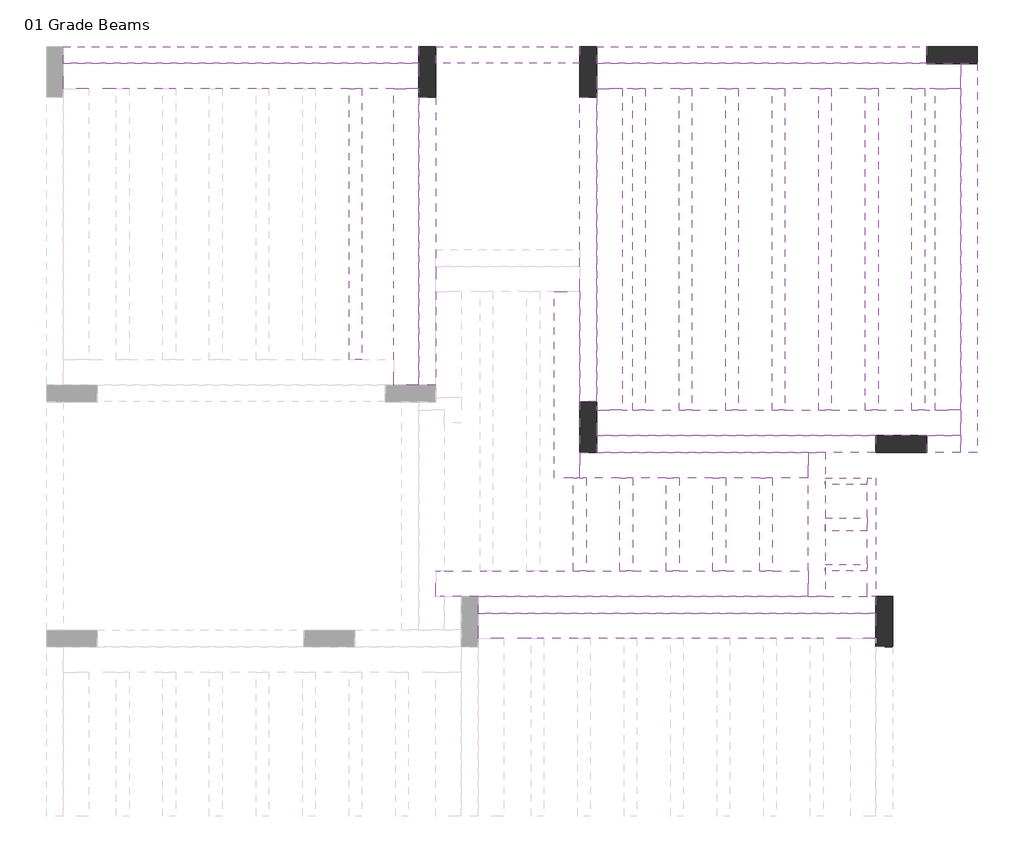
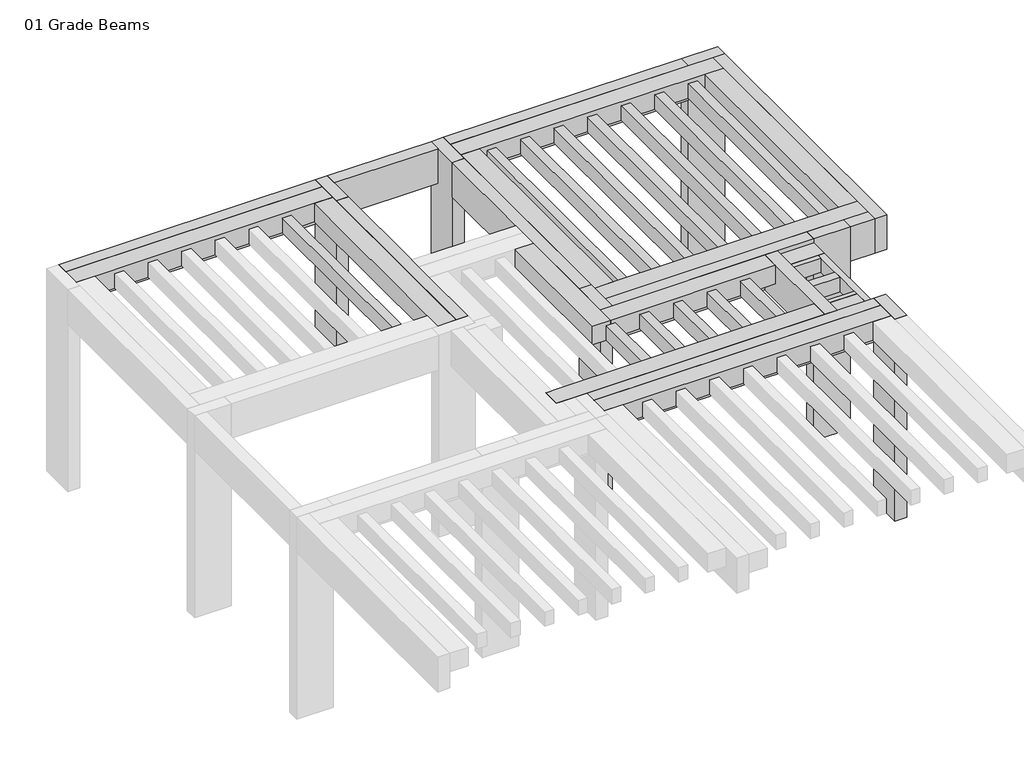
# One storey, part 3 of 3: 37 beams, 6 columns.
"""IFC4 building model written with IfcOpenShell, lengths in millimetres."""

from ifc_helpers import new_model, si_unit, frame, origin, place, context, project, spatial, polyline, outline, extrude, faceted_brep, element, save

model = new_model("IFC4")

# Units and contexts
model_context = context("Model", 3, world=origin())
ifc_project = project(units=[si_unit("LENGTHUNIT", "METRE", prefix="MILLI")], contexts=[model_context])

# Site, building, storey
site = spatial("IfcSite", under=ifc_project)
building = spatial("IfcBuilding", under=site)
storey = spatial("IfcBuildingStorey", under=building, Name="01 Grade Beams", Elevation=0.0)

# Beams
placement = place(None, origin())
element("IfcBeam", 1, ObjectType="M_Concrete-Rectangular Beam : DB1- 20 x 60 cm", at=placement, inside=storey, context=model_context, shape_type="Brep", body=[
    faceted_brep([(698.0737011, 8244.9958345, 3500.0), (698.0737011, 8044.9958345, 3500.0), (4598.0737011, 8044.9958345, 3500.0), (4598.0737011, 8244.9958345, 3500.0), (698.0737011, 8244.9958345, 2900.0), (4598.0737011, 8244.9958345, 2900.0), (698.0737011, 8044.9958345, 2900.0), (4598.0737011, 8044.9958345, 2900.0), (698.0737011, 8044.9958345, 3180.0)], [[[0, 1, 2, 3]], [[4, 0, 3, 5]], [[6, 4, 5, 7]], [[1, 8, 6, 7, 2]], [[1, 0, 4, 6, 8]], [[3, 2, 7, 5]]]),
])
element("IfcBeam", 2, ObjectType="M_Concrete-Rectangular Beam : DB1- 20 x 60 cm", at=placement, inside=storey, context=model_context, shape_type="Brep", body=[
    faceted_brep([(-1201.9262989, 8244.9958345, 3500.0), (-1201.9262989, 8044.9958345, 3500.0), (498.0737011, 8044.9958345, 3500.0), (498.0737011, 8244.9958345, 3500.0), (-1201.9262989, 8244.9958345, 2900.0), (498.0737011, 8244.9958345, 2900.0), (-1201.9262989, 8044.9958345, 2900.0), (498.0737011, 8044.9958345, 2900.0), (-1201.9262989, 8044.9958345, 3330.0), (-1201.9262989, 8044.9958345, 3180.0), (498.0737011, 8044.9958345, 3180.0), (498.0737011, 8044.9958345, 3330.0)], [[[0, 1, 2, 3]], [[4, 0, 3, 5]], [[6, 4, 5, 7]], [[1, 8, 9, 6, 7, 10, 11, 2]], [[1, 0, 4, 6, 9, 8]], [[3, 2, 11, 10, 7, 5]]]),
])
element("IfcBeam", 3, ObjectType="M_Concrete-Rectangular Beam : DB1- 20 x 60 cm", at=placement, inside=storey, context=model_context, shape_type="Brep", body=[
    faceted_brep([(-5601.9262989, 8244.9958345, 3500.0), (-5601.9262989, 8044.9958345, 3500.0), (-1401.9262989, 8044.9958345, 3500.0), (-1401.9262989, 8244.9958345, 3500.0), (-5601.9262989, 8244.9958345, 2900.0), (-1401.9262989, 8244.9958345, 2900.0), (-5601.9262989, 8044.9958345, 2900.0), (-1401.9262989, 8044.9958345, 2900.0), (-5601.9262989, 8044.9958345, 3180.0), (-1401.9262989, 8044.9958345, 3180.0)], [[[0, 1, 2, 3]], [[4, 0, 3, 5]], [[6, 4, 5, 7]], [[1, 8, 6, 7, 9, 2]], [[1, 0, 4, 6, 8]], [[3, 2, 9, 7, 5]]]),
])
element("IfcBeam", 4, ObjectType="M_Concrete-Rectangular Beam : DB1- 20 x 60 cm", at=placement, inside=storey, context=model_context, shape_type="Brep", body=[
    faceted_brep([(3198.0737011, 1744.9958345, 3500.0), (3398.0737011, 1744.9958345, 3500.0), (3398.0737011, 3444.9958345, 3500.0), (3198.0737011, 3444.9958345, 3500.0), (3198.0737011, 3144.9958345, 3500.0), (3198.0737011, 2044.9958345, 3500.0), (3198.0737011, 1744.9958345, 2900.0), (3198.0737011, 1744.9958345, 3180.0), (3198.0737011, 3444.9958345, 3180.0), (3198.0737011, 3444.9958345, 2900.0), (3398.0737011, 1744.9958345, 2900.0), (3398.0737011, 3444.9958345, 2900.0), (3398.0737011, 1744.9958345, 3430.0), (3398.0737011, 1744.9958345, 3180.0), (3398.0737011, 3444.9958345, 3180.0), (3398.0737011, 3444.9958345, 3430.0)], [[[0, 1, 2, 3, 4, 5]], [[6, 7, 0, 5, 4, 3, 8, 9]], [[10, 6, 9, 11]], [[1, 12, 13, 10, 11, 14, 15, 2]], [[1, 0, 7, 6, 10, 13, 12]], [[3, 2, 15, 14, 11, 9, 8]]]),
])
element("IfcBeam", 5, ObjectType="M_Concrete-Rectangular Beam : DB2- 20 x 60 cm", at=placement, inside=storey, context=model_context, shape_type="Brep", body=[
    faceted_brep([(-1201.9262989, 7644.9958345, 3500.0), (-1401.9262989, 7644.9958345, 3500.0), (-1401.9262989, 4244.9958345, 3500.0), (-1201.9262989, 4244.9958345, 3500.0), (-1201.9262989, 5344.9958345, 3500.0), (-1201.9262989, 5644.9958345, 3500.0), (-1201.9262989, 5844.9958345, 3500.0), (-1401.9262989, 7644.9958345, 2900.0), (-1401.9262989, 4244.9958345, 2900.0), (-1401.9262989, 4244.9958345, 3180.0), (-1201.9262989, 7644.9958345, 2900.0), (-1201.9262989, 5844.9958345, 2900.0), (-1201.9262989, 5644.9958345, 2900.0), (-1201.9262989, 4244.9958345, 2900.0)], [[[0, 1, 2, 3, 4, 5, 6]], [[1, 7, 8, 9, 2]], [[7, 10, 11, 12, 13, 8]], [[10, 0, 6, 5, 4, 3, 13, 12, 11]], [[1, 0, 10, 7]], [[3, 2, 9, 8, 13]]]),
])
element("IfcBeam", 6, ObjectType="M_Concrete-Rectangular Beam : DB2- 20 x 60 cm", at=placement, inside=storey, context=model_context, shape_type="Brep", body=[
    faceted_brep([(698.0737011, 7644.9958345, 3500.0), (498.0737011, 7644.9958345, 3500.0), (498.0737011, 5844.9958345, 3500.0), (498.0737011, 5644.9958345, 3500.0), (498.0737011, 5344.9958345, 3500.0), (498.0737011, 4044.9958345, 3500.0), (698.0737011, 4044.9958345, 3500.0), (498.0737011, 7644.9958345, 2900.0), (498.0737011, 5844.9958345, 2900.0), (498.0737011, 5644.9958345, 2900.0), (498.0737011, 4044.9958345, 2900.0), (698.0737011, 7644.9958345, 2900.0), (698.0737011, 4044.9958345, 2900.0)], [[[0, 1, 2, 3, 4, 5, 6]], [[1, 7, 8, 9, 10, 5, 4, 3, 2]], [[7, 11, 12, 10, 9, 8]], [[11, 0, 6, 12]], [[1, 0, 11, 7]], [[6, 5, 10, 12]]]),
])
element("IfcBeam", 7, ObjectType="M_Concrete-Rectangular Beam : DB2- 20 x 60 cm", at=placement, inside=storey, context=model_context, shape_type="Brep", body=[
    faceted_brep([(-701.9262989, 1744.9958345, 3500.0), (-701.9262989, 1544.9958345, 3500.0), (3998.0737011, 1544.9958345, 3500.0), (3998.0737011, 1744.9958345, 3500.0), (3398.0737011, 1744.9958345, 3500.0), (3198.0737011, 1744.9958345, 3500.0), (-701.9262989, 1544.9958345, 3180.0), (-701.9262989, 1544.9958345, 2900.0), (3998.0737011, 1544.9958345, 2900.0), (3998.0737011, 1544.9958345, 3180.0), (-701.9262989, 1744.9958345, 2900.0), (3198.0737011, 1744.9958345, 2900.0), (3398.0737011, 1744.9958345, 2900.0), (3998.0737011, 1744.9958345, 2900.0), (3998.0737011, 1744.9958345, 3430.0), (3998.0737011, 1744.9958345, 3180.0)], [[[0, 1, 2, 3, 4, 5]], [[1, 6, 7, 8, 9, 2]], [[7, 10, 11, 12, 13, 8]], [[10, 0, 5, 4, 3, 14, 15, 13, 12, 11]], [[1, 0, 10, 7, 6]], [[3, 2, 9, 8, 13, 15, 14]]]),
])
element("IfcBeam", 8, ObjectType="M_Concrete-Rectangular Beam : DB2- 20 x 60 cm", at=placement, inside=storey, context=model_context, shape_type="Brep", body=[
    faceted_brep([(3998.0737011, 3444.9958345, 3500.0), (3998.0737011, 3644.9958345, 3500.0), (698.0737011, 3644.9958345, 3500.0), (698.0737011, 3444.9958345, 3500.0), (3198.0737011, 3444.9958345, 3500.0), (3398.0737011, 3444.9958345, 3500.0), (3998.0737011, 3644.9958345, 2900.0), (698.0737011, 3644.9958345, 2900.0), (698.0737011, 3644.9958345, 3180.0), (3998.0737011, 3444.9958345, 2900.0), (3398.0737011, 3444.9958345, 2900.0), (3198.0737011, 3444.9958345, 2900.0), (698.0737011, 3444.9958345, 2900.0), (3998.0737011, 3444.9958345, 3180.0), (3998.0737011, 3444.9958345, 3430.0)], [[[0, 1, 2, 3, 4, 5]], [[1, 6, 7, 8, 2]], [[6, 9, 10, 11, 12, 7]], [[9, 13, 14, 0, 5, 4, 3, 12, 11, 10]], [[1, 0, 14, 13, 9, 6]], [[3, 2, 8, 7, 12]]]),
])
element("IfcBeam", 9, ObjectType="M_Concrete-Rectangular Beam : DB2- 20 x 60 cm", at=placement, inside=storey, context=model_context, shape_type="Brep", body=[
    faceted_brep([(4998.0737011, 3444.9958345, 3500.0), (5198.0737011, 3444.9958345, 3500.0), (5198.0737011, 8044.9958345, 3500.0), (4998.0737011, 8044.9958345, 3500.0), (4998.0737011, 7744.9958345, 3500.0), (4998.0737011, 3944.9958345, 3500.0), (4998.0737011, 3644.9958345, 3500.0), (4998.0737011, 3444.9958345, 2900.0), (4998.0737011, 8044.9958345, 3180.0), (4998.0737011, 8044.9958345, 2900.0), (4998.0737011, 3644.9958345, 2900.0), (5198.0737011, 3444.9958345, 2900.0), (5198.0737011, 8044.9958345, 2900.0)], [[[0, 1, 2, 3, 4, 5, 6]], [[7, 0, 6, 5, 4, 3, 8, 9, 10]], [[11, 7, 10, 9, 12]], [[1, 11, 12, 2]], [[1, 0, 7, 11]], [[3, 2, 12, 9, 8]]]),
])
element("IfcBeam", 10, ObjectType="M_Concrete-Rectangular Beam : DBC- 20 x 60 cm", at=placement, inside=storey, context=model_context, shape_type="Brep", body=[
    faceted_brep([(4998.0737011, 3444.9958345, 3500.0), (4998.0737011, 3644.9958345, 3500.0), (4598.0737011, 3644.9958345, 3500.0), (4598.0737011, 3444.9958345, 3500.0), (4998.0737011, 3444.9958345, 2900.0), (4598.0737011, 3444.9958345, 2900.0), (4998.0737011, 3644.9958345, 2900.0), (4598.0737011, 3644.9958345, 2900.0), (4998.0737011, 3644.9958345, 3180.0)], [[[0, 1, 2, 3]], [[4, 0, 3, 5]], [[6, 4, 5, 7]], [[1, 8, 6, 7, 2]], [[1, 0, 4, 6, 8]], [[3, 2, 7, 5]]]),
])
element("IfcBeam", 11, ObjectType="M_Concrete-Rectangular Beam : P- 30 x 32 cm", at=placement, inside=storey, context=model_context, shape_type="Brep", body=[
    faceted_brep([(-5601.9262989, 8044.9958345, 3500.0), (-5601.9262989, 7744.9958345, 3500.0), (-5301.9262989, 7744.9958345, 3500.0), (-1701.9262989, 7744.9958345, 3500.0), (-1401.9262989, 7744.9958345, 3500.0), (-1401.9262989, 8044.9958345, 3500.0), (-5601.9262989, 8044.9958345, 3180.0), (-1401.9262989, 8044.9958345, 3180.0), (-5601.9262989, 7744.9958345, 3180.0), (-1401.9262989, 7744.9958345, 3180.0), (-1701.9262989, 7744.9958345, 3180.0), (-2076.9262989, 7744.9958345, 3180.0), (-2226.9262989, 7744.9958345, 3180.0), (-2626.9262989, 7744.9958345, 3180.0), (-2776.9262989, 7744.9958345, 3180.0), (-3176.9262989, 7744.9958345, 3180.0), (-3326.9262989, 7744.9958345, 3180.0), (-3726.9262989, 7744.9958345, 3180.0), (-3876.9262989, 7744.9958345, 3180.0), (-4276.9262989, 7744.9958345, 3180.0), (-4426.9262989, 7744.9958345, 3180.0), (-4826.9262989, 7744.9958345, 3180.0), (-4976.9262989, 7744.9958345, 3180.0), (-5301.9262989, 7744.9958345, 3180.0)], [[[0, 1, 2, 3, 4, 5]], [[6, 0, 5, 7]], [[8, 6, 7, 9, 10, 11, 12, 13, 14, 15, 16, 17, 18, 19, 20, 21, 22, 23]], [[1, 8, 23, 22, 21, 20, 19, 18, 17, 16, 15, 14, 13, 12, 11, 10, 9, 4, 3, 2]], [[8, 1, 0, 6]], [[4, 9, 7, 5]]]),
])
element("IfcBeam", 12, ObjectType="M_Concrete-Rectangular Beam : P- 30 x 32 cm", at=placement, inside=storey, context=model_context, shape_type="Brep", body=[
    faceted_brep([(-1701.9262989, 4244.9958345, 3500.0), (-1401.9262989, 4244.9958345, 3500.0), (-1401.9262989, 7644.9958345, 3500.0), (-1401.9262989, 7744.9958345, 3500.0), (-1701.9262989, 7744.9958345, 3500.0), (-1701.9262989, 4544.9958345, 3500.0), (-1701.9262989, 4244.9958345, 3180.0), (-1701.9262989, 7744.9958345, 3430.0), (-1701.9262989, 7744.9958345, 3180.0), (-1701.9262989, 4544.9958345, 3180.0), (-1401.9262989, 4244.9958345, 3180.0), (-1401.9262989, 7744.9958345, 3180.0)], [[[0, 1, 2, 3, 4, 5]], [[6, 0, 5, 4, 7, 8, 9]], [[10, 6, 9, 8, 11]], [[1, 10, 11, 3, 2]], [[4, 3, 11, 8, 7]], [[1, 0, 6, 10]]]),
])
element("IfcBeam", 13, ObjectType="M_Concrete-Rectangular Beam : P- 30 x 32 cm", at=placement, inside=storey, context=model_context, shape_type="Brep", body=[
    faceted_brep([(698.0737011, 8044.9958345, 3500.0), (698.0737011, 7744.9958345, 3500.0), (998.0737011, 7744.9958345, 3500.0), (4698.0737011, 7744.9958345, 3500.0), (4998.0737011, 7744.9958345, 3500.0), (4998.0737011, 8044.9958345, 3500.0), (4598.0737011, 8044.9958345, 3500.0), (4998.0737011, 8044.9958345, 3180.0), (698.0737011, 8044.9958345, 3180.0), (698.0737011, 7744.9958345, 3180.0), (4998.0737011, 7744.9958345, 3180.0), (4698.0737011, 7744.9958345, 3180.0), (4573.0737011, 7744.9958345, 3180.0), (4423.0737011, 7744.9958345, 3180.0), (4023.0737011, 7744.9958345, 3180.0), (3873.0737011, 7744.9958345, 3180.0), (3473.0737011, 7744.9958345, 3180.0), (3323.0737011, 7744.9958345, 3180.0), (2923.0737011, 7744.9958345, 3180.0), (2773.0737011, 7744.9958345, 3180.0), (2373.0737011, 7744.9958345, 3180.0), (2223.0737011, 7744.9958345, 3180.0), (1823.0737011, 7744.9958345, 3180.0), (1673.0737011, 7744.9958345, 3180.0), (1273.0737011, 7744.9958345, 3180.0), (1123.0737011, 7744.9958345, 3180.0), (998.0737011, 7744.9958345, 3180.0)], [[[0, 1, 2, 3, 4, 5, 6]], [[5, 7, 8, 0, 6]], [[9, 8, 7, 10, 11, 12, 13, 14, 15, 16, 17, 18, 19, 20, 21, 22, 23, 24, 25, 26]], [[1, 9, 26, 25, 24, 23, 22, 21, 20, 19, 18, 17, 16, 15, 14, 13, 12, 11, 10, 4, 3, 2]], [[0, 8, 9, 1]], [[5, 4, 10, 7]]]),
])
element("IfcBeam", 14, ObjectType="M_Concrete-Rectangular Beam : P- 30 x 32 cm", at=placement, inside=storey, context=model_context, shape_type="Brep", body=[
    faceted_brep([(998.0737011, 7744.9958345, 3500.0), (698.0737011, 7744.9958345, 3500.0), (698.0737011, 7644.9958345, 3500.0), (698.0737011, 4044.9958345, 3500.0), (698.0737011, 3944.9958345, 3500.0), (998.0737011, 3944.9958345, 3500.0), (698.0737011, 7744.9958345, 3180.0), (698.0737011, 3944.9958345, 3180.0), (998.0737011, 7744.9958345, 3180.0), (998.0737011, 3944.9958345, 3180.0), (998.0737011, 7744.9958345, 3430.0), (998.0737011, 3944.9958345, 3430.0)], [[[0, 1, 2, 3, 4, 5]], [[1, 6, 7, 4, 3, 2]], [[6, 8, 9, 7]], [[8, 10, 0, 5, 11, 9]], [[1, 0, 10, 8, 6]], [[5, 4, 7, 9, 11]]]),
])
element("IfcBeam", 15, ObjectType="M_Concrete-Rectangular Beam : P- 30 x 32 cm", at=placement, inside=storey, context=model_context, shape_type="Brep", body=[
    faceted_brep([(698.0737011, 3944.9958345, 3500.0), (698.0737011, 3644.9958345, 3500.0), (3998.0737011, 3644.9958345, 3500.0), (4598.0737011, 3644.9958345, 3500.0), (4998.0737011, 3644.9958345, 3500.0), (4998.0737011, 3944.9958345, 3500.0), (4698.0737011, 3944.9958345, 3500.0), (998.0737011, 3944.9958345, 3500.0), (4998.0737011, 3644.9958345, 3180.0), (698.0737011, 3644.9958345, 3180.0), (698.0737011, 3944.9958345, 3180.0), (998.0737011, 3944.9958345, 3180.0), (1123.0737011, 3944.9958345, 3180.0), (1273.0737011, 3944.9958345, 3180.0), (1673.0737011, 3944.9958345, 3180.0), (1823.0737011, 3944.9958345, 3180.0), (2223.0737011, 3944.9958345, 3180.0), (2373.0737011, 3944.9958345, 3180.0), (2773.0737011, 3944.9958345, 3180.0), (2923.0737011, 3944.9958345, 3180.0), (3323.0737011, 3944.9958345, 3180.0), (3473.0737011, 3944.9958345, 3180.0), (3873.0737011, 3944.9958345, 3180.0), (4023.0737011, 3944.9958345, 3180.0), (4423.0737011, 3944.9958345, 3180.0), (4573.0737011, 3944.9958345, 3180.0), (4698.0737011, 3944.9958345, 3180.0), (4998.0737011, 3944.9958345, 3180.0)], [[[0, 1, 2, 3, 4, 5, 6, 7]], [[8, 4, 3, 2, 1, 9]], [[9, 10, 11, 12, 13, 14, 15, 16, 17, 18, 19, 20, 21, 22, 23, 24, 25, 26, 27, 8]], [[10, 0, 7, 6, 5, 27, 26, 25, 24, 23, 22, 21, 20, 19, 18, 17, 16, 15, 14, 13, 12, 11]], [[0, 10, 9, 1]], [[5, 4, 8, 27]]]),
])
element("IfcBeam", 16, ObjectType="M_Concrete-Rectangular Beam : P- 30 x 32 cm", at=placement, inside=storey, context=model_context, shape_type="Brep", body=[
    faceted_brep([(4998.0737011, 7744.9958345, 3500.0), (4698.0737011, 7744.9958345, 3500.0), (4698.0737011, 3944.9958345, 3500.0), (4998.0737011, 3944.9958345, 3500.0), (4998.0737011, 7744.9958345, 3180.0), (4998.0737011, 3944.9958345, 3180.0), (4698.0737011, 7744.9958345, 3180.0), (4698.0737011, 3944.9958345, 3180.0), (4698.0737011, 7744.9958345, 3430.0), (4698.0737011, 3944.9958345, 3430.0)], [[[0, 1, 2, 3]], [[4, 0, 3, 5]], [[6, 4, 5, 7]], [[1, 8, 6, 7, 9, 2]], [[1, 0, 4, 6, 8]], [[3, 2, 9, 7, 5]]]),
])
element("IfcBeam", 17, ObjectType="M_Concrete-Rectangular Beam : P- 30 x 32 cm", at=placement, inside=storey, context=model_context, shape_type="Brep", body=[
    faceted_brep([(-701.9262989, 1544.9958345, 3500.0), (-701.9262989, 1244.9958345, 3500.0), (-401.9262989, 1244.9958345, 3500.0), (3698.0737011, 1244.9958345, 3500.0), (3998.0737011, 1244.9958345, 3500.0), (3998.0737011, 1544.9958345, 3500.0), (-701.9262989, 1544.9958345, 3180.0), (3998.0737011, 1544.9958345, 3180.0), (-701.9262989, 1244.9958345, 3180.0), (3998.0737011, 1244.9958345, 3180.0), (3698.0737011, 1244.9958345, 3180.0), (3373.0737011, 1244.9958345, 3180.0), (3223.0737011, 1244.9958345, 3180.0), (2823.0737011, 1244.9958345, 3180.0), (2673.0737011, 1244.9958345, 3180.0), (2273.0737011, 1244.9958345, 3180.0), (2123.0737011, 1244.9958345, 3180.0), (1723.0737011, 1244.9958345, 3180.0), (1573.0737011, 1244.9958345, 3180.0), (1173.0737011, 1244.9958345, 3180.0), (1023.0737011, 1244.9958345, 3180.0), (623.0737011, 1244.9958345, 3180.0), (473.0737011, 1244.9958345, 3180.0), (73.0737011, 1244.9958345, 3180.0), (-76.9262989, 1244.9958345, 3180.0), (-401.9262989, 1244.9958345, 3180.0)], [[[0, 1, 2, 3, 4, 5]], [[6, 0, 5, 7]], [[8, 6, 7, 9, 10, 11, 12, 13, 14, 15, 16, 17, 18, 19, 20, 21, 22, 23, 24, 25]], [[1, 8, 25, 24, 23, 22, 21, 20, 19, 18, 17, 16, 15, 14, 13, 12, 11, 10, 9, 4, 3, 2]], [[1, 0, 6, 8]], [[5, 4, 9, 7]]]),
])
element("IfcBeam", 18, ObjectType="M_Concrete-Rectangular Beam : P- 30 x 32 cm", at=placement, inside=storey, context=model_context, shape_type="Brep", body=[
    faceted_brep([(498.0737011, 5344.9958345, 3500.0), (198.0737011, 5344.9958345, 3500.0), (198.0737011, 3144.9958345, 3500.0), (498.0737011, 3144.9958345, 3500.0), (498.0737011, 3444.9958345, 3500.0), (498.0737011, 4044.9958345, 3500.0), (198.0737011, 5344.9958345, 3430.0), (198.0737011, 5344.9958345, 3180.0), (198.0737011, 3144.9958345, 3180.0), (198.0737011, 3144.9958345, 3430.0), (498.0737011, 5344.9958345, 3180.0), (498.0737011, 3444.9958345, 3180.0), (498.0737011, 3144.9958345, 3180.0), (423.0737011, 3144.9958345, 3180.0), (498.0737011, 3144.9958345, 3430.0)], [[[0, 1, 2, 3, 4, 5]], [[2, 1, 6, 7, 8, 9]], [[7, 10, 11, 12, 13, 8]], [[10, 0, 5, 4, 3, 14, 12, 11]], [[1, 0, 10, 7, 6]], [[3, 2, 9, 8, 13, 12, 14]]]),
])
element("IfcBeam", 19, ObjectType="M_Concrete-Rectangular Beam : P- 30 x 32 cm", at=placement, inside=storey, context=model_context, shape_type="Brep", body=[
    faceted_brep([(498.0737011, 3444.9958345, 3500.0), (498.0737011, 3144.9958345, 3500.0), (3198.0737011, 3144.9958345, 3500.0), (3198.0737011, 3444.9958345, 3500.0), (698.0737011, 3444.9958345, 3500.0), (498.0737011, 3144.9958345, 3430.0), (498.0737011, 3144.9958345, 3180.0), (573.0737011, 3144.9958345, 3180.0), (973.0737011, 3144.9958345, 3180.0), (1123.0737011, 3144.9958345, 3180.0), (1523.0737011, 3144.9958345, 3180.0), (1673.0737011, 3144.9958345, 3180.0), (2073.0737011, 3144.9958345, 3180.0), (2223.0737011, 3144.9958345, 3180.0), (2623.0737011, 3144.9958345, 3180.0), (2773.0737011, 3144.9958345, 3180.0), (3198.0737011, 3144.9958345, 3180.0), (3198.0737011, 3144.9958345, 3430.0), (498.0737011, 3444.9958345, 3180.0), (3198.0737011, 3444.9958345, 3180.0)], [[[0, 1, 2, 3, 4]], [[2, 1, 5, 6, 7, 8, 9, 10, 11, 12, 13, 14, 15, 16, 17]], [[6, 18, 19, 16, 15, 14, 13, 12, 11, 10, 9, 8, 7]], [[18, 0, 4, 3, 19]], [[1, 0, 18, 6, 5]], [[3, 2, 17, 16, 19]]]),
    faceted_brep([(3398.0737011, 3444.9958345, 3180.0), (3398.0737011, 3144.9958345, 3180.0), (3398.0737011, 3144.9958345, 3430.0), (3398.0737011, 3444.9958345, 3430.0), (3898.0737011, 3144.9958345, 3180.0), (3998.0737011, 3144.9958345, 3180.0), (3998.0737011, 3144.9958345, 3430.0), (3898.0737011, 3144.9958345, 3430.0), (3998.0737011, 3444.9958345, 3180.0), (3998.0737011, 3444.9958345, 3430.0)], [[[0, 1, 2, 3]], [[2, 1, 4, 5, 6, 7]], [[1, 0, 8, 5, 4]], [[0, 3, 9, 8]], [[5, 8, 9, 6]], [[3, 2, 7, 6, 9]]]),
])
element("IfcBeam", 20, ObjectType="M_Concrete-Rectangular Beam : P- 30 x 32 cm", at=placement, inside=storey, context=model_context, shape_type="Brep", body=[
    faceted_brep([(3898.0737011, 3144.9958345, 3180.0), (3898.0737011, 3069.9958345, 3180.0), (3898.0737011, 2669.9958345, 3180.0), (3898.0737011, 2519.9958345, 3180.0), (3898.0737011, 2119.9958345, 3180.0), (3898.0737011, 2044.9958345, 3180.0), (3898.0737011, 1744.9958345, 3180.0), (3898.0737011, 1744.9958345, 3430.0), (3898.0737011, 2044.9958345, 3430.0), (3898.0737011, 2119.9958345, 3430.0), (3898.0737011, 2519.9958345, 3430.0), (3898.0737011, 2669.9958345, 3430.0), (3898.0737011, 3069.9958345, 3430.0), (3898.0737011, 3144.9958345, 3430.0), (3998.0737011, 3144.9958345, 3180.0), (3998.0737011, 1744.9958345, 3180.0), (3998.0737011, 3144.9958345, 3430.0), (3998.0737011, 1744.9958345, 3430.0)], [[[0, 1, 2, 3, 4, 5, 6, 7, 8, 9, 10, 11, 12, 13]], [[6, 5, 4, 3, 2, 1, 0, 14, 15]], [[14, 0, 13, 16]], [[6, 15, 17, 7]], [[15, 14, 16, 17]], [[13, 12, 11, 10, 9, 8, 7, 17, 16]]]),
])
element("IfcBeam", 21, ObjectType="M_Concrete-Rectangular Beam : P- 30 x 32 cm", at=placement, inside=storey, context=model_context, shape_type="Brep", body=[
    faceted_brep([(3898.0737011, 2044.9958345, 3180.0), (3398.0737011, 2044.9958345, 3180.0), (3398.0737011, 2044.9958345, 3430.0), (3898.0737011, 2044.9958345, 3430.0), (3898.0737011, 1744.9958345, 3180.0), (3398.0737011, 1744.9958345, 3180.0), (3898.0737011, 1744.9958345, 3430.0), (3398.0737011, 1744.9958345, 3430.0)], [[[0, 1, 2, 3]], [[0, 4, 5, 1]], [[5, 4, 6, 7]], [[4, 0, 3, 6]], [[1, 5, 7, 2]], [[3, 2, 7, 6]]]),
    faceted_brep([(3198.0737011, 2044.9958345, 3500.0), (3198.0737011, 1744.9958345, 3500.0), (3198.0737011, 1744.9958345, 3180.0), (3198.0737011, 2044.9958345, 3180.0), (3198.0737011, 2044.9958345, 3430.0), (-1101.9262989, 2044.9958345, 3500.0), (-1201.9262989, 2044.9958345, 3500.0), (-1201.9262989, 1744.9958345, 3500.0), (-1101.9262989, 1744.9958345, 3500.0), (-901.9262989, 1744.9958345, 3500.0), (-701.9262989, 1744.9958345, 3500.0), (2773.0737011, 2044.9958345, 3180.0), (2623.0737011, 2044.9958345, 3180.0), (2223.0737011, 2044.9958345, 3180.0), (2073.0737011, 2044.9958345, 3180.0), (1673.0737011, 2044.9958345, 3180.0), (1523.0737011, 2044.9958345, 3180.0), (1123.0737011, 2044.9958345, 3180.0), (973.0737011, 2044.9958345, 3180.0), (573.0737011, 2044.9958345, 3180.0), (423.0737011, 2044.9958345, 3180.0), (23.0737011, 2044.9958345, 3180.0), (-126.9262989, 2044.9958345, 3180.0), (-526.9262989, 2044.9958345, 3180.0), (-676.9262989, 2044.9958345, 3180.0), (-1101.9262989, 2044.9958345, 3180.0), (-1201.9262989, 2044.9958345, 3180.0), (-901.9262989, 1744.9958345, 3180.0), (-1101.9262989, 1744.9958345, 3180.0), (-1201.9262989, 1744.9958345, 3180.0)], [[[0, 1, 2, 3, 4]], [[1, 0, 5, 6, 7, 8, 9, 10]], [[0, 4, 3, 11, 12, 13, 14, 15, 16, 17, 18, 19, 20, 21, 22, 23, 24, 25, 26, 6, 5]], [[3, 2, 27, 28, 29, 26, 25, 24, 23, 22, 21, 20, 19, 18, 17, 16, 15, 14, 13, 12, 11]], [[2, 1, 10, 9, 8, 7, 29, 28, 27]], [[7, 6, 26, 29]]]),
])
element("IfcBeam", 22, ObjectType="M_Pan Joist : RB1- 32 x 15", at=placement, inside=storey, context=model_context, shape_type="SweptSolid", body=[
    extrude(outline(polyline([(-2226.9262989, 7744.9958345), (-2076.9262989, 7744.9958345), (-2076.9262989, 4544.9958345), (-2226.9262989, 4544.9958345), (-2226.9262989, 7744.9958345)])), frame((0.0, 0.0, 3180.0), z_axis=(0.0, 0.0, 1.0), x_axis=(1.0, 0.0, 0.0)), (0.0, 0.0, 1.0), 250.0),
])
element("IfcBeam", 23, ObjectType="M_Pan Joist : RB1- 32 x 15", at=placement, inside=storey, context=model_context, shape_type="SweptSolid", body=[
    extrude(outline(polyline([(4423.0737011, 7744.9958345), (4573.0737011, 7744.9958345), (4573.0737011, 3944.9958345), (4423.0737011, 3944.9958345), (4423.0737011, 7744.9958345)])), frame((0.0, 0.0, 3180.0), z_axis=(0.0, 0.0, 1.0), x_axis=(1.0, 0.0, 0.0)), (0.0, 0.0, 1.0), 250.0),
])
element("IfcBeam", 24, ObjectType="M_Pan Joist : RB1- 32 x 15", at=placement, inside=storey, context=model_context, shape_type="SweptSolid", body=[
    extrude(outline(polyline([(3873.0737011, 7744.9958345), (4023.0737011, 7744.9958345), (4023.0737011, 3944.9958345), (3873.0737011, 3944.9958345), (3873.0737011, 7744.9958345)])), frame((0.0, 0.0, 3180.0), z_axis=(0.0, 0.0, 1.0), x_axis=(1.0, 0.0, 0.0)), (0.0, 0.0, 1.0), 250.0),
])
element("IfcBeam", 25, ObjectType="M_Pan Joist : RB1- 32 x 15", at=placement, inside=storey, context=model_context, shape_type="SweptSolid", body=[
    extrude(outline(polyline([(3323.0737011, 7744.9958345), (3473.0737011, 7744.9958345), (3473.0737011, 3944.9958345), (3323.0737011, 3944.9958345), (3323.0737011, 7744.9958345)])), frame((0.0, 0.0, 3180.0), z_axis=(0.0, 0.0, 1.0), x_axis=(1.0, 0.0, 0.0)), (0.0, 0.0, 1.0), 250.0),
])
element("IfcBeam", 26, ObjectType="M_Pan Joist : RB1- 32 x 15", at=placement, inside=storey, context=model_context, shape_type="SweptSolid", body=[
    extrude(outline(polyline([(2773.0737011, 7744.9958345), (2923.0737011, 7744.9958345), (2923.0737011, 3944.9958345), (2773.0737011, 3944.9958345), (2773.0737011, 7744.9958345)])), frame((0.0, 0.0, 3180.0), z_axis=(0.0, 0.0, 1.0), x_axis=(1.0, 0.0, 0.0)), (0.0, 0.0, 1.0), 250.0),
])
element("IfcBeam", 27, ObjectType="M_Pan Joist : RB1- 32 x 15", at=placement, inside=storey, context=model_context, shape_type="SweptSolid", body=[
    extrude(outline(polyline([(2223.0737011, 7744.9958345), (2373.0737011, 7744.9958345), (2373.0737011, 3944.9958345), (2223.0737011, 3944.9958345), (2223.0737011, 7744.9958345)])), frame((0.0, 0.0, 3180.0), z_axis=(0.0, 0.0, 1.0), x_axis=(1.0, 0.0, 0.0)), (0.0, 0.0, 1.0), 250.0),
])
element("IfcBeam", 28, ObjectType="M_Pan Joist : RB1- 32 x 15", at=placement, inside=storey, context=model_context, shape_type="SweptSolid", body=[
    extrude(outline(polyline([(1673.0737011, 7744.9958345), (1823.0737011, 7744.9958345), (1823.0737011, 3944.9958345), (1673.0737011, 3944.9958345), (1673.0737011, 7744.9958345)])), frame((0.0, 0.0, 3180.0), z_axis=(0.0, 0.0, 1.0), x_axis=(1.0, 0.0, 0.0)), (0.0, 0.0, 1.0), 250.0),
])
element("IfcBeam", 29, ObjectType="M_Pan Joist : RB1- 32 x 15", at=placement, inside=storey, context=model_context, shape_type="SweptSolid", body=[
    extrude(outline(polyline([(1123.0737011, 7744.9958345), (1273.0737011, 7744.9958345), (1273.0737011, 3944.9958345), (1123.0737011, 3944.9958345), (1123.0737011, 7744.9958345)])), frame((0.0, 0.0, 3180.0), z_axis=(0.0, 0.0, 1.0), x_axis=(1.0, 0.0, 0.0)), (0.0, 0.0, 1.0), 250.0),
])
element("IfcBeam", 30, ObjectType="M_Pan Joist : RB1- 32 x 15", at=placement, inside=storey, context=model_context, shape_type="SweptSolid", body=[
    extrude(outline(polyline([(3898.0737011, 3069.9958345), (3398.0737011, 3069.9958345), (3398.0737011, 3144.9958345), (3898.0737011, 3144.9958345), (3898.0737011, 3069.9958345)])), frame((0.0, 0.0, 3180.0), z_axis=(0.0, 0.0, 1.0), x_axis=(1.0, 0.0, 0.0)), (0.0, 0.0, 1.0), 250.0),
])
element("IfcBeam", 31, ObjectType="M_Pan Joist : RB1- 32 x 15", at=placement, inside=storey, context=model_context, shape_type="SweptSolid", body=[
    extrude(outline(polyline([(3398.0737011, 2519.9958345), (3398.0737011, 2669.9958345), (3898.0737011, 2669.9958345), (3898.0737011, 2519.9958345), (3398.0737011, 2519.9958345)])), frame((0.0, 0.0, 3180.0), z_axis=(0.0, 0.0, 1.0), x_axis=(1.0, 0.0, 0.0)), (0.0, 0.0, 1.0), 250.0),
])
element("IfcBeam", 32, ObjectType="M_Pan Joist : RB1- 32 x 15", at=placement, inside=storey, context=model_context, shape_type="SweptSolid", body=[
    extrude(outline(polyline([(3398.0737011, 2119.9958345), (3898.0737011, 2119.9958345), (3898.0737011, 2044.9958345), (3398.0737011, 2044.9958345), (3398.0737011, 2119.9958345)])), frame((0.0, 0.0, 3180.0), z_axis=(0.0, 0.0, 1.0), x_axis=(1.0, 0.0, 0.0)), (0.0, 0.0, 1.0), 250.0),
])
element("IfcBeam", 33, ObjectType="M_Pan Joist : RB1- 32 x 15", at=placement, inside=storey, context=model_context, shape_type="SweptSolid", body=[
    extrude(outline(polyline([(2623.0737011, 3144.9958345), (2773.0737011, 3144.9958345), (2773.0737011, 2044.9958345), (2623.0737011, 2044.9958345), (2623.0737011, 3144.9958345)])), frame((0.0, 0.0, 3180.0), z_axis=(0.0, 0.0, 1.0), x_axis=(1.0, 0.0, 0.0)), (0.0, 0.0, 1.0), 250.0),
])
element("IfcBeam", 34, ObjectType="M_Pan Joist : RB1- 32 x 15", at=placement, inside=storey, context=model_context, shape_type="SweptSolid", body=[
    extrude(outline(polyline([(2073.0737011, 3144.9958345), (2223.0737011, 3144.9958345), (2223.0737011, 2044.9958345), (2073.0737011, 2044.9958345), (2073.0737011, 3144.9958345)])), frame((0.0, 0.0, 3180.0), z_axis=(0.0, 0.0, 1.0), x_axis=(1.0, 0.0, 0.0)), (0.0, 0.0, 1.0), 250.0),
])
element("IfcBeam", 35, ObjectType="M_Pan Joist : RB1- 32 x 15", at=placement, inside=storey, context=model_context, shape_type="SweptSolid", body=[
    extrude(outline(polyline([(1523.0737011, 3144.9958345), (1673.0737011, 3144.9958345), (1673.0737011, 2044.9958345), (1523.0737011, 2044.9958345), (1523.0737011, 3144.9958345)])), frame((0.0, 0.0, 3180.0), z_axis=(0.0, 0.0, 1.0), x_axis=(1.0, 0.0, 0.0)), (0.0, 0.0, 1.0), 250.0),
])
element("IfcBeam", 36, ObjectType="M_Pan Joist : RB1- 32 x 15", at=placement, inside=storey, context=model_context, shape_type="SweptSolid", body=[
    extrude(outline(polyline([(973.0737011, 3144.9958345), (1123.0737011, 3144.9958345), (1123.0737011, 2044.9958345), (973.0737011, 2044.9958345), (973.0737011, 3144.9958345)])), frame((0.0, 0.0, 3180.0), z_axis=(0.0, 0.0, 1.0), x_axis=(1.0, 0.0, 0.0)), (0.0, 0.0, 1.0), 250.0),
])
element("IfcBeam", 37, ObjectType="M_Pan Joist : RB1- 32 x 15", at=placement, inside=storey, context=model_context, shape_type="Brep", body=[
    faceted_brep([(423.0737011, 3144.9958345, 3430.0), (423.0737011, 3144.9958345, 3180.0), (423.0737011, 2044.9958345, 3180.0), (423.0737011, 2044.9958345, 3430.0), (498.0737011, 3144.9958345, 3180.0), (573.0737011, 3144.9958345, 3180.0), (573.0737011, 2044.9958345, 3180.0), (573.0737011, 3144.9958345, 3430.0), (573.0737011, 2044.9958345, 3430.0)], [[[0, 1, 2, 3]], [[1, 4, 5, 6, 2]], [[5, 7, 8, 6]], [[7, 0, 3, 8]], [[1, 0, 7, 5, 4]], [[3, 2, 6, 8]]]),
])

# Columns
element("IfcColumn", 38, ObjectType="M_Concrete-Rectangular-Column : 20 x 60 cm", at=placement, inside=storey, context=model_context, shape_type="Brep", body=[
    faceted_brep([(-1201.9262989, 8244.9958345, 0.0), (-1201.9262989, 7644.9958345, 0.0), (-1401.9262989, 7644.9958345, 0.0), (-1401.9262989, 8244.9958345, 0.0), (-1201.9262989, 8244.9958345, 3500.0), (-1201.9262989, 7644.9958345, 3500.0), (-1401.9262989, 7644.9958345, 3500.0), (-1401.9262989, 7744.9958345, 3500.0), (-1401.9262989, 8244.9958345, 3500.0)], [[[0, 1, 2, 3]], [[4, 5, 1, 0]], [[5, 6, 2, 1]], [[6, 7, 8, 3, 2]], [[8, 4, 0, 3]], [[4, 8, 7, 6, 5]]]),
])
element("IfcColumn", 39, ObjectType="M_Concrete-Rectangular-Column : 20 x 60 cm", at=placement, inside=storey, context=model_context, shape_type="Brep", body=[
    faceted_brep([(698.0737011, 8244.9958345, 0.0), (698.0737011, 7644.9958345, 0.0), (498.0737011, 7644.9958345, 0.0), (498.0737011, 8244.9958345, 0.0), (698.0737011, 8244.9958345, 3500.0), (698.0737011, 7744.9958345, 3500.0), (698.0737011, 7644.9958345, 3500.0), (498.0737011, 7644.9958345, 3500.0), (498.0737011, 8244.9958345, 3500.0)], [[[0, 1, 2, 3]], [[4, 5, 6, 1, 0]], [[6, 7, 2, 1]], [[7, 8, 3, 2]], [[8, 4, 0, 3]], [[4, 8, 7, 6, 5]]]),
])
element("IfcColumn", 40, ObjectType="M_Concrete-Rectangular-Column : 20 x 60 cm", at=placement, inside=storey, context=model_context, shape_type="Brep", body=[
    faceted_brep([(4598.0737011, 8244.9958345, 0.0), (5198.0737011, 8244.9958345, 0.0), (5198.0737011, 8044.9958345, 0.0), (4598.0737011, 8044.9958345, 0.0), (4598.0737011, 8244.9958345, 3500.0), (5198.0737011, 8244.9958345, 3500.0), (5198.0737011, 8044.9958345, 3500.0), (4998.0737011, 8044.9958345, 3500.0), (4598.0737011, 8044.9958345, 3500.0)], [[[0, 1, 2, 3]], [[4, 5, 1, 0]], [[5, 6, 2, 1]], [[6, 7, 8, 3, 2]], [[8, 4, 0, 3]], [[4, 8, 7, 6, 5]]]),
])
element("IfcColumn", 41, ObjectType="M_Concrete-Rectangular-Column : 20 x 60 cm", at=placement, inside=storey, context=model_context, shape_type="Brep", body=[
    faceted_brep([(3998.0737011, 3644.9958345, 0.0), (4598.0737011, 3644.9958345, 0.0), (4598.0737011, 3444.9958345, 0.0), (3998.0737011, 3444.9958345, 0.0), (3998.0737011, 3644.9958345, 3500.0), (4598.0737011, 3644.9958345, 3500.0), (4598.0737011, 3444.9958345, 3500.0), (3998.0737011, 3444.9958345, 3500.0), (3998.0737011, 3444.9958345, 3180.0)], [[[0, 1, 2, 3]], [[4, 5, 1, 0]], [[5, 6, 2, 1]], [[6, 7, 8, 3, 2]], [[7, 4, 0, 3, 8]], [[4, 7, 6, 5]]]),
])
element("IfcColumn", 42, ObjectType="M_Concrete-Rectangular-Column : 20 x 60 cm", at=placement, inside=storey, context=model_context, shape_type="Brep", body=[
    faceted_brep([(498.0737011, 3444.9958345, 0.0), (498.0737011, 4044.9958345, 0.0), (698.0737011, 4044.9958345, 0.0), (698.0737011, 3444.9958345, 0.0), (498.0737011, 3444.9958345, 3500.0), (498.0737011, 4044.9958345, 3500.0), (498.0737011, 3444.9958345, 3180.0), (698.0737011, 4044.9958345, 3500.0), (698.0737011, 3944.9958345, 3500.0), (698.0737011, 3444.9958345, 3500.0)], [[[0, 1, 2, 3]], [[4, 5, 1, 0, 6]], [[5, 7, 2, 1]], [[7, 8, 9, 3, 2]], [[9, 4, 6, 0, 3]], [[4, 9, 8, 7, 5]]]),
])
element("IfcColumn", 43, ObjectType="M_Concrete-Rectangular-Column : 20 x 60 cm", at=placement, inside=storey, context=model_context, shape_type="Brep", body=[
    faceted_brep([(4198.0737011, 1744.9958345, 0.0), (4198.0737011, 1144.9958345, 0.0), (3998.0737011, 1144.9958345, 0.0), (3998.0737011, 1744.9958345, 0.0), (4198.0737011, 1744.9958345, 3500.0), (4198.0737011, 1144.9958345, 3500.0), (4198.0737011, 1744.9958345, 3180.0), (3998.0737011, 1144.9958345, 3500.0), (3998.0737011, 1244.9958345, 3500.0), (3998.0737011, 1544.9958345, 3500.0), (3998.0737011, 1744.9958345, 3500.0), (3998.0737011, 1744.9958345, 3180.0)], [[[0, 1, 2, 3]], [[4, 5, 1, 0, 6]], [[5, 7, 2, 1]], [[7, 8, 9, 10, 11, 3, 2]], [[10, 4, 6, 0, 3, 11]], [[4, 10, 9, 8, 7, 5]]]),
])

save(model, "model.ifc")
